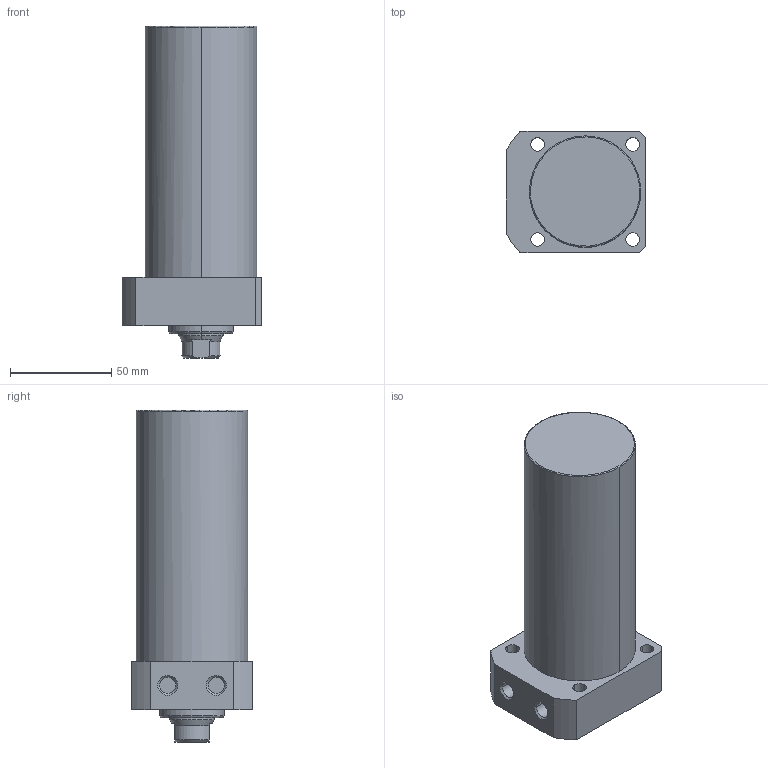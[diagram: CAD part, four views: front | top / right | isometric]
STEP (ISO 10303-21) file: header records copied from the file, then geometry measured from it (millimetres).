
FILE_DESCRIPTION((' '),'2;1');
FILE_NAME( 'TLLR-055CA-095.STEP.stp', '2025-10-24T16:34:42', (' '), ('--- Datakit www.datakit.com---'), ' Datakit CrossCadWare V2024.1 Dec 21 2023', 'Mastercam 2025', ' ');
FILE_SCHEMA(('AUTOMOTIVE_DESIGN { 1 0 10303 214 1 1 1 1 }'));
Length unit declared in the file: millimetre
Products named in the file (1): TLLR-055CA-095
Bounding box: 69 x 60 x 164 mm (x, y, z)
Volume: 392230.3 mm3; surface area: 39712.7 mm2
Topology: 1 solids, 1 shells, 63 faces, 177 edges, 122 vertices
Faces by surface type: cylinder 28, plane 19, cone 14, torus 2
Entity records: 2164 total; most frequent: CARTESIAN_POINT 401, DIRECTION 400, ORIENTED_EDGE 350, EDGE_CURVE 175, AXIS2_PLACEMENT_3D 169, VERTEX_POINT 122, CIRCLE 105, EDGE_LOOP 79
